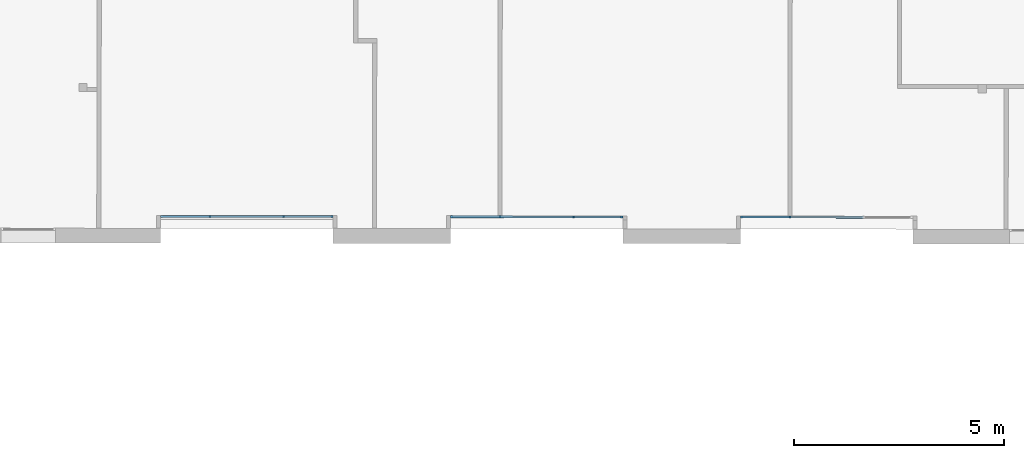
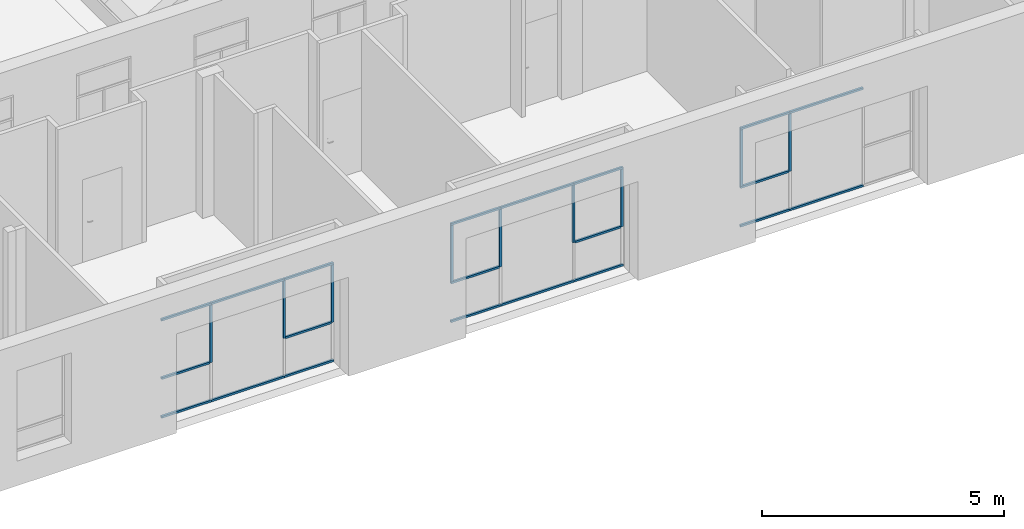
# One storey, part 5 of 101: 30 members, 3 elements without a shape of their own.
"""IFC2X3 building model written with IfcOpenShell, lengths in metres."""

from ifc_helpers import new_model, entity, si_unit, converted_unit, derived_unit, direction, frame, origin, origin_2d_with_axis, place, context, subcontext, project, spatial, rectangle, extrude, source, transform, mapped, material, type_object, type_shapes, element, aggregate, save


model = new_model("IFC2X3")

# Units and contexts
model_context = context("Model", 3, precision=1e-05, world=origin(), true_north=direction((6.123233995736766e-17, 1.0)))
body_context = subcontext(model_context, "Body", "Model", "MODEL_VIEW")
ifc_project = project(units=[si_unit("LENGTHUNIT", "METRE"), si_unit("AREAUNIT", "SQUARE_METRE"), converted_unit("PLANEANGLEUNIT", "DEGREE", entity("IfcPlaneAngleMeasure", 0.017453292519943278), si_unit("PLANEANGLEUNIT", "RADIAN"), dimensions=[0, 0, 0, 0, 0, 0, 0]), derived_unit("THERMALTRANSMITTANCEUNIT", [(si_unit("MASSUNIT", "GRAM", prefix="KILO"), 1), (si_unit("THERMODYNAMICTEMPERATUREUNIT", "KELVIN"), -1), (si_unit("TIMEUNIT", "SECOND"), -3)])], contexts=[model_context])

# Site, building, storey
site_placement = place(None, frame((1253.6752467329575, 2072.143113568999, 91.49999999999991), z_axis=(0.0, 0.0, 1.0), x_axis=(0.7237211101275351, 0.6900925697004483, 0.0)))
site = spatial("IfcSite", under=ifc_project, at=site_placement, Name="Surface", CompositionType="ELEMENT")
building_placement = place(site_placement, origin())
building = spatial("IfcBuilding", under=site, at=building_placement, CompositionType="ELEMENT")
storey_placement = place(building_placement, origin())
storey = spatial("IfcBuildingStorey", under=building, at=storey_placement, Name="0- Rdc", CompositionType="ELEMENT", Elevation=-5.764692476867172e-13)

# Curtain wall, member
curtain_wall_type = type_object("IfcCurtainWallType", Name="Mur-rideau:Menuiserie Ext 1F+1OB VERTIC", PredefinedType="NOTDEFINED")
curtain_wall_1_placement = place(storey_placement, origin())
curtain_wall_1 = element("IfcCurtainWall", 1, at=curtain_wall_1_placement, inside=storey, type_object=curtain_wall_type, Name="Mur-rideau:Menuiserie Ext 1F+1OB VERTIC", ObjectType="Mur-rideau:Menuiserie Ext 1F+1OB VERTIC")
ifc_material = material(Name="OMD_Aluminium Men Ext")
member_type_1 = type_object("IfcMemberType", Name="Meneau rectangulaire:50x50", PredefinedType="MULLION", material=ifc_material)
shared_shape_1 = source(origin(), body_context, "Body", "SweptSolid", [
    extrude(rectangle(XDim=0.05, YDim=0.049999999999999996, at=origin_2d_with_axis()), frame((-0.025, 0.0, -1.1799999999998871), z_axis=(0.0, 0.0, 1.0), x_axis=(-1.0, 0.0, 0.0)), (0.0, 0.0, 1.0), 1.1799999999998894),
])
type_shapes(member_type_1, [shared_shape_1])
member_1_placement = place(curtain_wall_1_placement, frame((155.56142859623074, -6.157492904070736, 2.4999999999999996), z_axis=(-0.7228702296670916, 0.6909838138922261, 0.0), x_axis=(0.0, 0.0, 1.0)))
member_1 = element("IfcMember", 2, at=member_1_placement, type_object=member_type_1, material=ifc_material, Name="Meneau rectangulaire:50x50", ObjectType="Meneau rectangulaire:50x50", context=body_context, shape_type="MappedRepresentation", body=[
    mapped(shared_shape_1, transform((0.0, 0.0, 0.0), scale=1.0)),
])

curtain_wall_2_placement = place(storey_placement, origin())
curtain_wall_2 = element("IfcCurtainWall", 3, at=curtain_wall_2_placement, inside=storey, type_object=curtain_wall_type, Name="Mur-rideau:Menuiserie Ext 1F+1OB VERTIC", ObjectType="Mur-rideau:Menuiserie Ext 1F+1OB VERTIC")
member_2_placement = place(curtain_wall_2_placement, frame((160.54923318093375, -10.925281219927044, 2.4999999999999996), z_axis=(-0.722870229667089, 0.6909838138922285, 0.0), x_axis=(0.0, 0.0, 1.0)))
member_2 = element("IfcMember", 4, at=member_2_placement, type_object=member_type_1, material=ifc_material, Name="Meneau rectangulaire:50x50", ObjectType="Meneau rectangulaire:50x50", context=body_context, shape_type="MappedRepresentation", body=[
    mapped(shared_shape_1, transform((0.0, 0.0, 0.0), scale=1.0)),
])

curtain_wall_3_placement = place(storey_placement, origin())
curtain_wall_3 = element("IfcCurtainWall", 5, at=curtain_wall_3_placement, inside=storey, type_object=curtain_wall_type, Name="Mur-rideau:Menuiserie Ext 1F+1OB VERTIC", ObjectType="Mur-rideau:Menuiserie Ext 1F+1OB VERTIC")
member_3_placement = place(curtain_wall_3_placement, frame((165.53703776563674, -15.693069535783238, 2.4999999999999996), z_axis=(-0.72287022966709, 0.6909838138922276, 0.0), x_axis=(0.0, 0.0, 1.0)))
member_3 = element("IfcMember", 6, at=member_3_placement, type_object=member_type_1, material=ifc_material, Name="Meneau rectangulaire:50x50", ObjectType="Meneau rectangulaire:50x50", context=body_context, shape_type="MappedRepresentation", body=[
    mapped(shared_shape_1, transform((0.0, 0.0, 0.0), scale=1.0)),
])

# Member
member_type_2 = type_object("IfcMemberType", Name="Meneau rectangulaire:50x50", PredefinedType="MULLION", material=ifc_material)
shared_shape_2 = source(origin(), body_context, "Body", "SweptSolid", [
    extrude(rectangle(XDim=0.05, YDim=0.05, at=origin_2d_with_axis()), frame((-0.025, 0.0, -1.174999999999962), z_axis=(0.0, 0.0, 1.0), x_axis=(-1.0, 0.0, 0.0)), (0.0, 0.0, 1.0), 1.1749999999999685),
])
type_shapes(member_type_2, [shared_shape_2])
member_4_placement = place(curtain_wall_1_placement, frame((158.5251965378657, -8.990526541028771, 0.0), z_axis=(0.7228702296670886, -0.6909838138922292, 0.0), x_axis=(0.0, 0.0, -1.0)))
member_4 = element("IfcMember", 7, at=member_4_placement, type_object=member_type_2, material=ifc_material, Name="Meneau rectangulaire:50x50", ObjectType="Meneau rectangulaire:50x50", context=body_context, shape_type="MappedRepresentation", body=[
    mapped(shared_shape_2, transform((0.0, 0.0, 0.0), scale=1.0)),
])

member_5_placement = place(curtain_wall_2_placement, frame((163.51300112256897, -13.75831485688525, 0.0), z_axis=(0.7228702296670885, -0.6909838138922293, 0.0), x_axis=(0.0, 0.0, -1.0)))
member_5 = element("IfcMember", 8, at=member_5_placement, type_object=member_type_2, material=ifc_material, Name="Meneau rectangulaire:50x50", ObjectType="Meneau rectangulaire:50x50", context=body_context, shape_type="MappedRepresentation", body=[
    mapped(shared_shape_2, transform((0.0, 0.0, 0.0), scale=1.0)),
])

member_type_3 = type_object("IfcMemberType", Name="Meneau rectangulaire:50x50", PredefinedType="MULLION", material=ifc_material)
shared_shape_3 = source(origin(), body_context, "Body", "SweptSolid", [
    extrude(rectangle(XDim=0.05, YDim=0.05, at=origin_2d_with_axis()), frame((-0.025, 0.0, -1.4499999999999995), z_axis=(0.0, 0.0, 1.0), x_axis=(-1.0, 0.0, 0.0)), (0.0, 0.0, 1.0), 1.4499999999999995),
])
type_shapes(member_type_3, [shared_shape_3])
member_6_placement = place(curtain_wall_1_placement, frame((158.52519653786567, -8.990526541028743, 2.4499999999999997), z_axis=(0.0, 0.0, 1.0), x_axis=(0.7228702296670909, -0.6909838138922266, 0.0)))
member_6 = element("IfcMember", 9, at=member_6_placement, type_object=member_type_3, material=ifc_material, Name="Meneau rectangulaire:50x50", ObjectType="Meneau rectangulaire:50x50", context=body_context, shape_type="MappedRepresentation", body=[
    mapped(shared_shape_3, transform((0.0, 0.0, 0.0), scale=1.0)),
])

member_7_placement = place(curtain_wall_2_placement, frame((163.51300112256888, -13.75831485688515, 2.4499999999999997), z_axis=(0.0, 0.0, 1.0), x_axis=(0.7228702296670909, -0.6909838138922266, 0.0)))
member_7 = element("IfcMember", 10, at=member_7_placement, type_object=member_type_3, material=ifc_material, Name="Meneau rectangulaire:50x50", ObjectType="Meneau rectangulaire:50x50", context=body_context, shape_type="MappedRepresentation", body=[
    mapped(shared_shape_3, transform((0.0, 0.0, 0.0), scale=1.0)),
])

member_type_4 = type_object("IfcMemberType", Name="Meneau rectangulaire:50x50", PredefinedType="MULLION", material=ifc_material)
shared_shape_4 = source(origin(), body_context, "Body", "SweptSolid", [
    extrude(rectangle(XDim=0.05, YDim=0.049999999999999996, at=origin_2d_with_axis()), frame((-0.025, 0.0, -1.7450000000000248), z_axis=(0.0, 0.0, 1.0), x_axis=(-1.0, 0.0, 0.0)), (0.0, 0.0, 1.0), 1.7450000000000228),
])
type_shapes(member_type_4, [shared_shape_4])
member_8_placement = place(curtain_wall_1_placement, frame((156.41441546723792, -6.972853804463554, 2.4999999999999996), z_axis=(-0.7228702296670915, 0.6909838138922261, 0.0), x_axis=(0.0, 0.0, 1.0)))
member_8 = element("IfcMember", 11, at=member_8_placement, type_object=member_type_4, material=ifc_material, Name="Meneau rectangulaire:50x50", ObjectType="Meneau rectangulaire:50x50", context=body_context, shape_type="MappedRepresentation", body=[
    mapped(shared_shape_4, transform((0.0, 0.0, 0.0), scale=1.0)),
])

member_9_placement = place(curtain_wall_2_placement, frame((161.40222005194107, -11.740642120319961, 2.4999999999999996), z_axis=(-0.7228702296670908, 0.6909838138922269, 0.0), x_axis=(0.0, 0.0, 1.0)))
member_9 = element("IfcMember", 12, at=member_9_placement, type_object=member_type_4, material=ifc_material, Name="Meneau rectangulaire:50x50", ObjectType="Meneau rectangulaire:50x50", context=body_context, shape_type="MappedRepresentation", body=[
    mapped(shared_shape_4, transform((0.0, 0.0, 0.0), scale=1.0)),
])

member_10_placement = place(curtain_wall_3_placement, frame((166.390024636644, -16.508430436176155, 2.499999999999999), z_axis=(-0.7228702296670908, 0.6909838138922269, 0.0), x_axis=(0.0, 0.0, 1.0)))
member_10 = element("IfcMember", 13, at=member_10_placement, type_object=member_type_4, material=ifc_material, Name="Meneau rectangulaire:50x50", ObjectType="Meneau rectangulaire:50x50", context=body_context, shape_type="MappedRepresentation", body=[
    mapped(shared_shape_4, transform((0.0, 0.0, 0.0), scale=1.0)),
])

member_type_5 = type_object("IfcMemberType", Name="Meneau rectangulaire:50x50", PredefinedType="MULLION", material=ifc_material)
shared_shape_5 = source(origin(), body_context, "Body", "SweptSolid", [
    extrude(rectangle(XDim=0.05, YDim=0.05000000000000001, at=origin_2d_with_axis()), frame((-0.025, 0.0, -1.1799999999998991), z_axis=(0.0, 0.0, 1.0), x_axis=(-1.0, 0.0, 0.0)), (0.0, 0.0, 1.0), 1.1799999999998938),
])
type_shapes(member_type_5, [shared_shape_5])
member_11_placement = place(curtain_wall_1_placement, frame((156.41441546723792, -6.972853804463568, 0.0), z_axis=(0.7228702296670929, -0.6909838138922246, 0.0), x_axis=(0.0, 0.0, -1.0)))
member_11 = element("IfcMember", 14, at=member_11_placement, type_object=member_type_5, material=ifc_material, Name="Meneau rectangulaire:50x50", ObjectType="Meneau rectangulaire:50x50", context=body_context, shape_type="MappedRepresentation", body=[
    mapped(shared_shape_5, transform((0.0, 0.0, 0.0), scale=1.0)),
])

member_12_placement = place(curtain_wall_2_placement, frame((161.40222005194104, -11.740642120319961, 0.0), z_axis=(0.7228702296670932, -0.6909838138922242, 0.0), x_axis=(0.0, 0.0, -1.0)))
member_12 = element("IfcMember", 15, at=member_12_placement, type_object=member_type_5, material=ifc_material, Name="Meneau rectangulaire:50x50", ObjectType="Meneau rectangulaire:50x50", context=body_context, shape_type="MappedRepresentation", body=[
    mapped(shared_shape_5, transform((0.0, 0.0, 0.0), scale=1.0)),
])

member_13_placement = place(curtain_wall_3_placement, frame((166.390024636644, -16.50843043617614, 0.0), z_axis=(0.7228702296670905, -0.6909838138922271, 0.0), x_axis=(0.0, 0.0, -1.0)))
member_13 = element("IfcMember", 16, at=member_13_placement, type_object=member_type_5, material=ifc_material, Name="Meneau rectangulaire:50x50", ObjectType="Meneau rectangulaire:50x50", context=body_context, shape_type="MappedRepresentation", body=[
    mapped(shared_shape_5, transform((0.0, 0.0, 0.0), scale=1.0)),
])

member_type_6 = type_object("IfcMemberType", Name="Meneau rectangulaire:50x50", PredefinedType="MULLION", material=ifc_material)
shared_shape_6 = source(origin(), body_context, "Body", "SweptSolid", [
    extrude(rectangle(XDim=0.05, YDim=0.05000000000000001, at=origin_2d_with_axis()), frame((-0.025, 0.0, -1.4249999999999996), z_axis=(0.0, 0.0, 1.0), x_axis=(-1.0, 0.0, 0.0)), (0.0, 0.0, 1.0), 1.4249999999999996),
])
type_shapes(member_type_6, [shared_shape_6])
member_14_placement = place(curtain_wall_2_placement, frame((160.54923318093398, -10.9252812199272, 1.025), z_axis=(0.0, 0.0, -1.0), x_axis=(-0.7228702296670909, 0.6909838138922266, 0.0)))
member_14 = element("IfcMember", 17, at=member_14_placement, type_object=member_type_6, material=ifc_material, Name="Meneau rectangulaire:50x50", ObjectType="Meneau rectangulaire:50x50", context=body_context, shape_type="MappedRepresentation", body=[
    mapped(shared_shape_6, transform((0.0, 0.0, 0.0), scale=1.0)),
])

member_15_placement = place(curtain_wall_3_placement, frame((165.5370377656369, -15.69306953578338, 1.025), z_axis=(0.0, 0.0, -1.0), x_axis=(-0.7228702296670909, 0.6909838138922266, 0.0)))
member_15 = element("IfcMember", 18, at=member_15_placement, type_object=member_type_6, material=ifc_material, Name="Meneau rectangulaire:50x50", ObjectType="Meneau rectangulaire:50x50", context=body_context, shape_type="MappedRepresentation", body=[
    mapped(shared_shape_6, transform((0.0, 0.0, 0.0), scale=1.0)),
])

member_type_7 = type_object("IfcMemberType", Name="Meneau rectangulaire:50x50", PredefinedType="MULLION", material=ifc_material)
shared_shape_7 = source(origin(), body_context, "Body", "SweptSolid", [
    extrude(rectangle(XDim=0.05, YDim=0.05, at=origin_2d_with_axis()), frame((0.0, 0.0, -1.449999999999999), z_axis=(0.0, 0.0, 1.0), x_axis=(-1.0, 0.0, 0.0)), (0.0, 0.0, 1.0), 1.449999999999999),
])
type_shapes(member_type_7, [shared_shape_7])
member_16_placement = place(curtain_wall_1_placement, frame((156.4144154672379, -6.972853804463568, 1.0), z_axis=(0.0, 0.0, -1.0), x_axis=(-0.7228702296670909, 0.6909838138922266, 0.0)))
member_16 = element("IfcMember", 19, at=member_16_placement, type_object=member_type_7, material=ifc_material, Name="Meneau rectangulaire:50x50", ObjectType="Meneau rectangulaire:50x50", context=body_context, shape_type="MappedRepresentation", body=[
    mapped(shared_shape_7, transform((0.0, 0.0, 0.0), scale=1.0)),
])

member_17_placement = place(curtain_wall_1_placement, frame((157.67582401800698, -8.178620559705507, 1.0), z_axis=(0.0, 0.0, -1.0), x_axis=(-0.7228702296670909, 0.6909838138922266, 0.0)))
member_17 = element("IfcMember", 20, at=member_17_placement, type_object=member_type_7, material=ifc_material, Name="Meneau rectangulaire:50x50", ObjectType="Meneau rectangulaire:50x50", context=body_context, shape_type="MappedRepresentation", body=[
    mapped(shared_shape_7, transform((0.0, 0.0, 0.0), scale=1.0)),
])

member_18_placement = place(curtain_wall_2_placement, frame((161.40222005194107, -11.740642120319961, 1.0), z_axis=(0.0, 0.0, -1.0), x_axis=(-0.7228702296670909, 0.6909838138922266, 0.0)))
member_18 = element("IfcMember", 21, at=member_18_placement, type_object=member_type_7, material=ifc_material, Name="Meneau rectangulaire:50x50", ObjectType="Meneau rectangulaire:50x50", context=body_context, shape_type="MappedRepresentation", body=[
    mapped(shared_shape_7, transform((0.0, 0.0, 0.0), scale=1.0)),
])

member_19_placement = place(curtain_wall_2_placement, frame((162.66362860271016, -12.946408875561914, 1.0), z_axis=(0.0, 0.0, -1.0), x_axis=(-0.7228702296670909, 0.6909838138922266, 0.0)))
member_19 = element("IfcMember", 22, at=member_19_placement, type_object=member_type_7, material=ifc_material, Name="Meneau rectangulaire:50x50", ObjectType="Meneau rectangulaire:50x50", context=body_context, shape_type="MappedRepresentation", body=[
    mapped(shared_shape_7, transform((0.0, 0.0, 0.0), scale=1.0)),
])

member_20_placement = place(curtain_wall_3_placement, frame((166.390024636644, -16.508430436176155, 1.0), z_axis=(0.0, 0.0, -1.0), x_axis=(-0.7228702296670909, 0.6909838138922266, 0.0)))
member_20 = element("IfcMember", 23, at=member_20_placement, type_object=member_type_7, material=ifc_material, Name="Meneau rectangulaire:50x50", ObjectType="Meneau rectangulaire:50x50", context=body_context, shape_type="MappedRepresentation", body=[
    mapped(shared_shape_7, transform((0.0, 0.0, 0.0), scale=1.0)),
])

member_type_8 = type_object("IfcMemberType", Name="Meneau rectangulaire:50x50", PredefinedType="MULLION", material=ifc_material)
shared_shape_8 = source(origin(), body_context, "Body", "SweptSolid", [
    extrude(rectangle(XDim=0.05, YDim=0.05, at=origin_2d_with_axis()), frame((0.0, 0.0, -1.1549999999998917), z_axis=(0.0, 0.0, 1.0), x_axis=(-1.0, 0.0, 0.0)), (0.0, 0.0, 1.0), 1.154999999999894),
])
type_shapes(member_type_8, [shared_shape_8])
member_21_placement = place(curtain_wall_1_placement, frame((155.5614285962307, -6.15749290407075, 1.0), z_axis=(-0.7228702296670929, 0.6909838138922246, 0.0), x_axis=(0.0, 0.0, 1.0)))
member_21 = element("IfcMember", 24, at=member_21_placement, type_object=member_type_8, material=ifc_material, Name="Meneau rectangulaire:50x50", ObjectType="Meneau rectangulaire:50x50", context=body_context, shape_type="MappedRepresentation", body=[
    mapped(shared_shape_8, transform((0.0, 0.0, 0.0), scale=1.0)),
])

member_22_placement = place(curtain_wall_2_placement, frame((160.54923318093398, -10.9252812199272, 1.0), z_axis=(-0.7228702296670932, 0.6909838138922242, 0.0), x_axis=(0.0, 0.0, 1.0)))
member_22 = element("IfcMember", 25, at=member_22_placement, type_object=member_type_8, material=ifc_material, Name="Meneau rectangulaire:50x50", ObjectType="Meneau rectangulaire:50x50", context=body_context, shape_type="MappedRepresentation", body=[
    mapped(shared_shape_8, transform((0.0, 0.0, 0.0), scale=1.0)),
])

member_23_placement = place(curtain_wall_3_placement, frame((165.5370377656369, -15.693069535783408, 1.0), z_axis=(-0.7228702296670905, 0.6909838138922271, 0.0), x_axis=(0.0, 0.0, 1.0)))
member_23 = element("IfcMember", 26, at=member_23_placement, type_object=member_type_8, material=ifc_material, Name="Meneau rectangulaire:50x50", ObjectType="Meneau rectangulaire:50x50", context=body_context, shape_type="MappedRepresentation", body=[
    mapped(shared_shape_8, transform((0.0, 0.0, 0.0), scale=1.0)),
])

member_type_9 = type_object("IfcMemberType", Name="Meneau rectangulaire:50x50", PredefinedType="MULLION", material=ifc_material)
shared_shape_9 = source(origin(), body_context, "Body", "SweptSolid", [
    extrude(rectangle(XDim=0.05, YDim=0.05, at=origin_2d_with_axis()), frame((0.0, 0.0, -1.0999999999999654), z_axis=(0.0, 0.0, 1.0), x_axis=(-1.0, 0.0, 0.0)), (0.0, 0.0, 1.0), 1.0999999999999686),
])
type_shapes(member_type_9, [shared_shape_9])
member_24_placement = place(curtain_wall_1_placement, frame((157.69389577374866, -8.19589515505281, 1.0), z_axis=(-0.7228702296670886, 0.6909838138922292, 0.0), x_axis=(0.0, 0.0, 1.0)))
member_24 = element("IfcMember", 27, at=member_24_placement, type_object=member_type_9, material=ifc_material, Name="Meneau rectangulaire:50x50", ObjectType="Meneau rectangulaire:50x50", context=body_context, shape_type="MappedRepresentation", body=[
    mapped(shared_shape_9, transform((0.0, 0.0, 0.0), scale=1.0)),
])

member_25_placement = place(curtain_wall_2_placement, frame((162.68170035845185, -12.963683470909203, 1.0), z_axis=(-0.7228702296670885, 0.6909838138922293, 0.0), x_axis=(0.0, 0.0, 1.0)))
member_25 = element("IfcMember", 28, at=member_25_placement, type_object=member_type_9, material=ifc_material, Name="Meneau rectangulaire:50x50", ObjectType="Meneau rectangulaire:50x50", context=body_context, shape_type="MappedRepresentation", body=[
    mapped(shared_shape_9, transform((0.0, 0.0, 0.0), scale=1.0)),
])

member_type_10 = type_object("IfcMemberType", Name="Meneau rectangulaire:50x50", PredefinedType="MULLION", material=ifc_material)
shared_shape_10 = source(origin(), body_context, "Body", "SweptSolid", [
    extrude(rectangle(XDim=0.05, YDim=0.05, at=origin_2d_with_axis()), frame((-0.025, 0.0, -1.7450000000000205), z_axis=(0.0, 0.0, 1.0), x_axis=(-1.0, 0.0, 0.0)), (0.0, 0.0, 1.0), 1.7450000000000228),
])
type_shapes(member_type_10, [shared_shape_10])
member_26_placement = place(curtain_wall_1_placement, frame((157.675824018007, -8.178620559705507, 0.0), z_axis=(0.7228702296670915, -0.6909838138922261, 0.0), x_axis=(0.0, 0.0, -1.0)))
member_26 = element("IfcMember", 29, at=member_26_placement, type_object=member_type_10, material=ifc_material, Name="Meneau rectangulaire:50x50", ObjectType="Meneau rectangulaire:50x50", context=body_context, shape_type="MappedRepresentation", body=[
    mapped(shared_shape_10, transform((0.0, 0.0, 0.0), scale=1.0)),
])

member_27_placement = place(curtain_wall_2_placement, frame((162.66362860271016, -12.946408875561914, 0.0), z_axis=(0.7228702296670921, -0.6909838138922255, 0.0), x_axis=(0.0, 0.0, -1.0)))
member_27 = element("IfcMember", 30, at=member_27_placement, type_object=member_type_10, material=ifc_material, Name="Meneau rectangulaire:50x50", ObjectType="Meneau rectangulaire:50x50", context=body_context, shape_type="MappedRepresentation", body=[
    mapped(shared_shape_10, transform((0.0, 0.0, 0.0), scale=1.0)),
])

member_28_placement = place(curtain_wall_3_placement, frame((167.6514331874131, -17.714197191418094, 0.0), z_axis=(0.7228702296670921, -0.6909838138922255, 0.0), x_axis=(0.0, 0.0, -1.0)))
member_28 = element("IfcMember", 31, at=member_28_placement, type_object=member_type_10, material=ifc_material, Name="Meneau rectangulaire:50x50", ObjectType="Meneau rectangulaire:50x50", context=body_context, shape_type="MappedRepresentation", body=[
    mapped(shared_shape_10, transform((0.0, 0.0, 0.0), scale=1.0)),
])

aggregate(curtain_wall_3, [member_3, member_10, member_13, member_15, member_20, member_23, member_28])

member_type_11 = type_object("IfcMemberType", Name="Meneau rectangulaire:50x50", PredefinedType="MULLION", material=ifc_material)
shared_shape_11 = source(origin(), body_context, "Body", "SweptSolid", [
    extrude(rectangle(XDim=0.05, YDim=0.049999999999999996, at=origin_2d_with_axis()), frame((-0.025, 0.0, -1.174999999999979), z_axis=(0.0, 0.0, 1.0), x_axis=(-1.0, 0.0, 0.0)), (0.0, 0.0, 1.0), 1.1749999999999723),
])
type_shapes(member_type_11, [shared_shape_11])
member_29_placement = place(curtain_wall_1_placement, frame((157.675824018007, -8.178620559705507, 2.4999999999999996), z_axis=(-0.7228702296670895, 0.6909838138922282, 0.0), x_axis=(0.0, 0.0, 1.0)))
member_29 = element("IfcMember", 32, at=member_29_placement, type_object=member_type_11, material=ifc_material, Name="Meneau rectangulaire:50x50", ObjectType="Meneau rectangulaire:50x50", context=body_context, shape_type="MappedRepresentation", body=[
    mapped(shared_shape_11, transform((0.0, 0.0, 0.0), scale=1.0)),
])

aggregate(curtain_wall_1, [member_1, member_4, member_6, member_8, member_11, member_16, member_21, member_24, member_26, member_29, member_17])

member_30_placement = place(curtain_wall_2_placement, frame((162.66362860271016, -12.946408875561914, 2.4999999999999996), z_axis=(-0.7228702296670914, 0.6909838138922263, 0.0), x_axis=(0.0, 0.0, 1.0)))
member_30 = element("IfcMember", 33, at=member_30_placement, type_object=member_type_11, material=ifc_material, Name="Meneau rectangulaire:50x50", ObjectType="Meneau rectangulaire:50x50", context=body_context, shape_type="MappedRepresentation", body=[
    mapped(shared_shape_11, transform((0.0, 0.0, 0.0), scale=1.0)),
])

aggregate(curtain_wall_2, [member_2, member_5, member_7, member_9, member_12, member_14, member_18, member_22, member_25, member_27, member_30, member_19])

save(model, "model.ifc")
